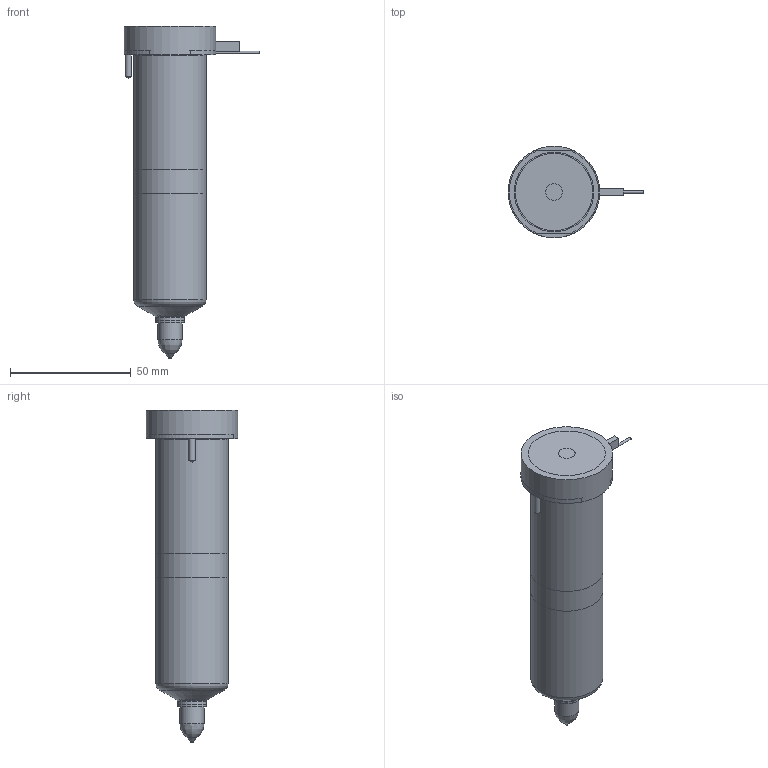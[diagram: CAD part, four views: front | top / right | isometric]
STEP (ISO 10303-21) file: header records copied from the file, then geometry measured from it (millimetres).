
FILE_DESCRIPTION(/* description */ (''),/* implementation_level */ '2;1');
FILE_NAME(/* name */ 'BXTT-BXIT16115-10_200C_b',/* time_stamp */ '2007-01-18T10:00:06+13:00',/* author */ (''),/* organization */ (''),/* preprocessor_version */ 'ST-DEVELOPER v9',/* originating_system */ 'UGS - NX 4.0',/* authorisation */ '');
FILE_SCHEMA (('CONFIG_CONTROL_DESIGN'));
Length unit declared in the file: millimetre
Products named in the file (1): BXTT-BXIT16115-10_200C_b
Bounding box: 56.25 x 38 x 137.53 mm (x, y, z)
Volume: 162593.7 mm3; surface area: 29959.5 mm2
Topology: 6 solids, 6 shells, 82 faces, 162 edges, 102 vertices
Faces by surface type: plane 35, cylinder 25, cone 12, torus 8, bspline 2
Full cylindrical faces by diameter (mm): 1 x4, 2.5 x2, 6.5 x1, 7 x1, 10 x1, 11.61 x1, 12.01 x2, 14.8 x1, 25.4 x1, 30 x2, 38 x1
Entity records: 2035 total; most frequent: CARTESIAN_POINT 419, DIRECTION 340, ORIENTED_EDGE 236, AXIS2_PLACEMENT_3D 151, EDGE_LOOP 128, EDGE_CURVE 118, VERTEX_POINT 95, ADVANCED_FACE 82
